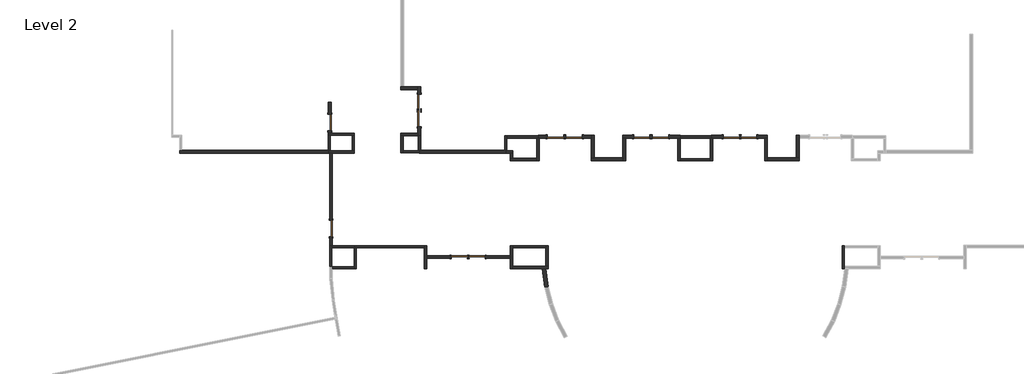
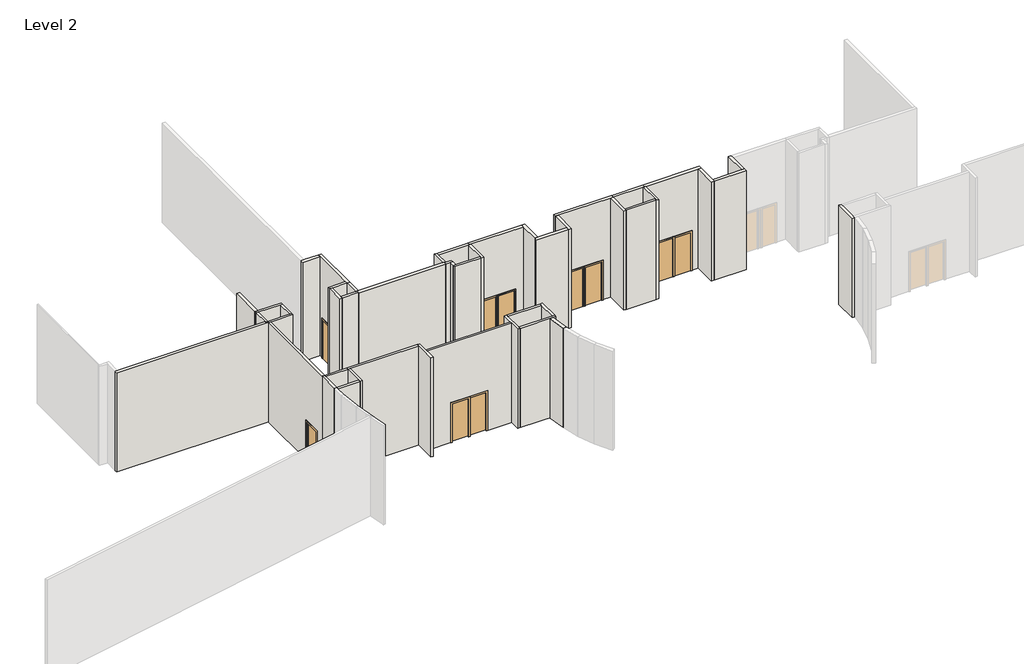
# One storey, part 4 of 9: 46 walls, 12 doors.
"""IFC4 building model written with IfcOpenShell, lengths in millimetres."""

from ifc_helpers import new_model, si_unit, frame, origin, place, context, project, spatial, polyline, outline, extrude, faceted_brep, transform, mapped, element, save
from components import door_7c9e1b45, door_8244bb97, door_3b0d1d25, door_1264ff72

model = new_model("IFC4")

# Units and contexts
model_context = context("Model", 3, world=origin())
ifc_project = project(units=[si_unit("LENGTHUNIT", "METRE", prefix="MILLI")], contexts=[model_context])

# Site, building, storey
site = spatial("IfcSite", under=ifc_project)
building = spatial("IfcBuilding", under=site)
storey = spatial("IfcBuildingStorey", under=building, Name="Level 2", Elevation=5486.4)

# Doors
placement = place(None, origin())
door_shape = door_7c9e1b45(model_context)
element("IfcDoor", 1, ObjectType="Single-Flush : 34\" x 84\"", at=placement, inside=storey, context=model_context, shape_type="MappedRepresentation", body=[
    mapped(door_shape, transform((12627.3004373, 1095.1832334, 5486.4), x_axis=(1.0, 0.0, 0.0), y_axis=(0.0, 1.0, 0.0), z_axis=(0.0, 0.0, 1.0))),
])
element("IfcDoor", 2, ObjectType="Single-Flush : 34\" x 84\"", at=placement, inside=storey, context=model_context, shape_type="MappedRepresentation", body=[
    mapped(door_shape, transform((4928.1349579, 2611.2457269, 5486.4), x_axis=(0.0, -1.0, 0.0), y_axis=(1.0, 0.0, 0.0), z_axis=(0.0, 0.0, 1.0))),
])
door_2_shape = door_8244bb97(model_context)
element("IfcDoor", 3, ObjectType="Single-Flush : 34\" x 84\"", at=placement, inside=storey, context=model_context, shape_type="MappedRepresentation", body=[
    mapped(door_2_shape, transform((16769.0879373, 7440.4206109, 5486.4), x_axis=(-1.0, 0.0, 0.0), y_axis=(0.0, -1.0, 0.0), z_axis=(0.0, 0.0, 1.0))),
])
element("IfcDoor", 4, ObjectType="Single-Flush : 34\" x 84\"", at=placement, inside=storey, context=model_context, shape_type="MappedRepresentation", body=[
    mapped(door_2_shape, transform((21325.2129373, 7440.4206109, 5486.4), x_axis=(-1.0, 0.0, 0.0), y_axis=(0.0, -1.0, 0.0), z_axis=(0.0, 0.0, 1.0))),
])
element("IfcDoor", 5, ObjectType="Single-Flush : 34\" x 84\"", at=placement, inside=storey, context=model_context, shape_type="MappedRepresentation", body=[
    mapped(door_2_shape, transform((26065.4879373, 7440.4206109, 5486.4), x_axis=(-1.0, 0.0, 0.0), y_axis=(0.0, -1.0, 0.0), z_axis=(0.0, 0.0, 1.0))),
])
element("IfcDoor", 6, ObjectType="Single-Flush : 34\" x 84\"", at=placement, inside=storey, context=model_context, shape_type="MappedRepresentation", body=[
    mapped(door_2_shape, transform((4859.6629372, 8197.6581105, 5486.4), x_axis=(0.0, -1.0, 0.0), y_axis=(1.0, 0.0, 0.0), z_axis=(0.0, 0.0, 1.0))),
])
element("IfcDoor", 7, ObjectType="Single-Flush : 34\" x 84\"", at=placement, inside=storey, context=model_context, shape_type="MappedRepresentation", body=[
    mapped(door_2_shape, transform((9593.5879373, 9250.1706107, 5486.4), x_axis=(0.0, 1.0, 0.0), y_axis=(-1.0, 0.0, 0.0), z_axis=(0.0, 0.0, 1.0))),
])
door_3_shape = door_3b0d1d25(model_context)
element("IfcDoor", 8, ObjectType="Single-Flush : 34\" x 84\"", at=placement, inside=storey, context=model_context, shape_type="MappedRepresentation", body=[
    mapped(door_3_shape, transform((11712.9004373, 1095.1832334, 5486.4), x_axis=(-1.0, 0.0, 0.0), y_axis=(0.0, -1.0, 0.0), z_axis=(0.0, 0.0, 1.0))),
])
door_4_shape = door_1264ff72(model_context)
element("IfcDoor", 9, ObjectType="Single-Flush : 34\" x 84\"", at=placement, inside=storey, context=model_context, shape_type="MappedRepresentation", body=[
    mapped(door_4_shape, transform((17753.3379373, 7440.4206109, 5486.4), x_axis=(1.0, 0.0, 0.0), y_axis=(0.0, 1.0, 0.0), z_axis=(0.0, 0.0, 1.0))),
])
element("IfcDoor", 10, ObjectType="Single-Flush : 34\" x 84\"", at=placement, inside=storey, context=model_context, shape_type="MappedRepresentation", body=[
    mapped(door_4_shape, transform((22309.4629373, 7440.4206109, 5486.4), x_axis=(1.0, 0.0, 0.0), y_axis=(0.0, 1.0, 0.0), z_axis=(0.0, 0.0, 1.0))),
])
element("IfcDoor", 11, ObjectType="Single-Flush : 34\" x 84\"", at=placement, inside=storey, context=model_context, shape_type="MappedRepresentation", body=[
    mapped(door_4_shape, transform((26973.5379373, 7440.4206109, 5486.4), x_axis=(1.0, 0.0, 0.0), y_axis=(0.0, 1.0, 0.0), z_axis=(0.0, 0.0, 1.0))),
])
element("IfcDoor", 12, ObjectType="Single-Flush : 34\" x 84\"", at=placement, inside=storey, context=model_context, shape_type="MappedRepresentation", body=[
    mapped(door_4_shape, transform((9593.5879373, 8412.7643606, 5486.4), x_axis=(0.0, -1.0, 0.0), y_axis=(1.0, 0.0, 0.0), z_axis=(0.0, 0.0, 1.0))),
])

# Walls
element("IfcWall", 13, ObjectType="N3A/B", at=placement, inside=storey, context=model_context, shape_type="Brep", body=[
    faceted_brep([(9671.3754373, 10089.9581107, 5486.4), (9671.3754373, 10089.9581107, 10972.8), (9671.3754373, 7513.4456105, 10972.8), (9671.3754373, 7513.4456105, 5486.4), (9671.3754373, 7980.9643606, 5486.4), (9671.3754373, 7980.9643606, 7620.0), (9671.3754373, 9681.9706107, 7620.0), (9671.3754373, 9681.9706107, 5486.4), (9515.8004373, 7513.4456105, 5486.4), (9515.8004373, 7513.4456105, 10972.8), (9515.8004373, 7637.2706105, 10972.8), (9515.8004373, 9934.3831107, 10972.8), (9515.8004373, 10089.9581107, 10972.8), (9515.8004373, 10089.9581107, 5486.4), (9515.8004373, 9934.3831107, 5486.4), (9515.8004373, 9681.9706107, 5486.4), (9515.8004373, 9681.9706107, 7620.0), (9515.8004373, 7980.9643606, 7620.0), (9515.8004373, 7980.9643606, 5486.4), (9515.8004373, 7637.2706105, 5486.4), (9655.5004373, 7513.4456105, 5486.4), (9531.6754373, 7513.4456105, 5486.4), (9531.6754373, 7513.4456105, 10972.8), (9655.5004373, 7513.4456105, 10972.8)], [[[0, 1, 2, 3, 4, 5, 6, 7]], [[8, 9, 10, 11, 12, 13, 14, 15, 16, 17, 18, 19]], [[3, 20, 21, 8, 19, 18, 4]], [[13, 0, 7, 15, 14]], [[2, 1, 12, 11, 10, 9, 22, 23]], [[1, 0, 13, 12]], [[3, 2, 23, 22, 9, 8, 21, 20]], [[16, 15, 7, 6]], [[16, 6, 5, 17]], [[17, 5, 4, 18]]]),
])
element("IfcWall", 14, ObjectType="N3A/B", at=placement, inside=storey, context=model_context, shape_type="Brep", body=[
    faceted_brep([(9515.8004373, 10089.9581107, 5486.4), (8756.9754373, 10089.9581107, 5486.4), (8601.4004373, 10089.9581107, 5486.4), (8601.4004373, 10089.9581107, 10972.8), (8756.9754373, 10089.9581107, 10972.8), (9515.8004373, 10089.9581107, 10972.8), (9515.8004373, 9934.3831107, 5486.4), (9515.8004373, 9934.3831107, 10972.8), (8601.4004373, 9934.3831107, 10972.8), (8601.4004373, 9934.3831107, 5486.4)], [[[0, 1, 2, 3, 4, 5]], [[6, 7, 8, 9]], [[2, 1, 0, 6, 9]], [[5, 4, 3, 8, 7]], [[3, 2, 9, 8]], [[0, 5, 7, 6]]]),
])
element("IfcWall", 15, ObjectType="N3A/B", at=placement, inside=storey, context=model_context, shape_type="Brep", body=[
    faceted_brep([(-3060.3745627, 6581.5831105, 5486.4), (4866.2224579, 6581.5831105, 5486.4), (4866.2224579, 6581.5831105, 10972.8), (-3060.3745627, 6581.5831105, 10972.8), (-3060.3745627, 6737.1581105, 5486.4), (-3060.3745627, 6737.1581105, 10972.8), (-2936.5495627, 6737.1581105, 10972.8), (4788.2254373, 6737.1581105, 10972.8), (4788.2254373, 6737.1581105, 5486.4), (-2936.5495627, 6737.1581105, 5486.4), (4788.2254373, 6695.8831105, 5486.4), (4788.2254373, 6587.9331105, 5486.4), (4866.2224579, 6587.9331105, 5486.4), (4866.2224579, 6587.9331105, 10972.8), (4788.2254373, 6587.9331105, 10972.8), (4788.2254373, 6695.8831105, 10972.8)], [[[0, 1, 2, 3]], [[4, 5, 6, 7, 8, 9]], [[1, 0, 4, 9, 8, 10, 11, 12]], [[3, 2, 13, 14, 15, 7, 6, 5]], [[0, 3, 5, 4]], [[2, 1, 12, 13]], [[12, 11, 14, 13]], [[11, 10, 8, 7, 15, 14]]]),
])
element("IfcWall", 16, ObjectType="N3A/B", at=placement, inside=storey, context=model_context, shape_type="Brep", body=[
    faceted_brep([(4781.8754372, 7765.8581105, 7620.0), (4781.8754372, 7765.8581105, 5486.4), (4781.8754372, 7642.0331105, 5486.4), (4781.8754372, 7642.0331105, 10972.8), (4781.8754372, 9277.1581105, 10972.8), (4781.8754372, 9277.1581105, 5486.4), (4781.8754372, 8629.4581105, 5486.4), (4781.8754372, 8629.4581105, 7620.0), (4937.4504372, 7642.0331105, 5486.4), (4937.4504372, 7765.8581105, 5486.4), (4937.4504372, 7765.8581105, 7620.0), (4937.4504372, 8629.4581105, 7620.0), (4937.4504372, 8629.4581105, 5486.4), (4937.4504372, 9277.1581105, 5486.4), (4937.4504372, 9277.1581105, 10972.8), (4937.4504372, 7642.0331105, 10972.8), (4788.2254373, 7642.0331105, 5486.4), (4788.2254373, 7642.0331105, 10972.8)], [[[0, 1, 2, 3, 4, 5, 6, 7]], [[8, 9, 10, 11, 12, 13, 14, 15]], [[2, 1, 9, 8, 16]], [[6, 5, 13, 12]], [[4, 3, 17, 15, 14]], [[5, 4, 14, 13]], [[3, 2, 16, 8, 15, 17]], [[10, 9, 1, 0]], [[11, 10, 0, 7]], [[12, 11, 7, 6]]]),
])
element("IfcWall", 17, ObjectType="N3A/B", at=placement, inside=storey, context=model_context, shape_type="Brep", body=[
    faceted_brep([(27405.3379373, 7362.6331109, 7620.0), (27405.3379373, 7362.6331109, 5486.4), (27803.8004373, 7362.6331109, 5486.4), (27959.3754373, 7362.6331109, 5486.4), (27959.3754373, 7362.6331109, 10972.8), (27803.8004373, 7362.6331109, 10972.8), (25060.6004373, 7362.6331109, 10972.8), (24998.6879373, 7362.6331109, 10972.8), (24998.6879373, 7362.6331109, 5486.4), (25060.6004373, 7362.6331109, 5486.4), (25633.6879373, 7362.6331109, 5486.4), (25633.6879373, 7362.6331109, 7620.0), (26497.2879373, 7362.6331109, 7620.0), (26497.2879373, 7362.6331109, 5486.4), (26541.7379373, 7362.6331109, 5486.4), (26541.7379373, 7362.6331109, 7620.0), (27959.3754373, 7518.2081109, 5486.4), (27405.3379373, 7518.2081109, 5486.4), (27405.3379373, 7518.2081109, 7620.0), (26541.7379373, 7518.2081109, 7620.0), (26541.7379373, 7518.2081109, 5486.4), (26497.2879373, 7518.2081109, 5486.4), (26497.2879373, 7518.2081109, 7620.0), (25633.6879373, 7518.2081109, 7620.0), (25633.6879373, 7518.2081109, 5486.4), (24998.6879373, 7518.2081109, 5486.4), (24998.6879373, 7518.2081109, 10972.8), (27959.3754373, 7518.2081109, 10972.8), (24998.6879373, 7378.5081109, 5486.4), (24998.6879373, 7502.3331109, 5486.4), (24998.6879373, 7502.3331109, 10972.8), (24998.6879373, 7378.5081109, 10972.8)], [[[0, 1, 2, 3, 4, 5, 6, 7, 8, 9, 10, 11, 12, 13, 14, 15]], [[16, 17, 18, 19, 20, 21, 22, 23, 24, 25, 26, 27]], [[25, 24, 10, 9, 8, 28, 29]], [[3, 2, 1, 17, 16]], [[14, 13, 21, 20]], [[7, 6, 5, 4, 27, 26, 30, 31]], [[8, 7, 31, 30, 26, 25, 29, 28]], [[4, 3, 16, 27]], [[11, 10, 24, 23]], [[12, 11, 23, 22]], [[13, 12, 22, 21]], [[18, 17, 1, 0]], [[19, 18, 0, 15]], [[20, 19, 15, 14]]]),
])
element("IfcWall", 18, ObjectType="N3A/B", at=placement, inside=storey, context=model_context, shape_type="Brep", body=[
    faceted_brep([(27803.8004373, 7362.6331109, 5486.4), (27803.8004373, 6175.1831102, 5486.4), (27803.8004373, 6175.1831102, 10972.8), (27803.8004373, 7362.6331109, 10972.8), (27959.3754373, 7362.6331109, 5486.4), (27959.3754373, 7362.6331109, 10972.8), (27959.3754373, 6330.7581102, 10972.8), (27959.3754373, 6175.1831102, 10972.8), (27959.3754373, 6175.1831102, 5486.4), (27959.3754373, 6330.7581102, 5486.4)], [[[0, 1, 2, 3]], [[4, 5, 6, 7, 8, 9]], [[1, 0, 4, 9, 8]], [[3, 2, 7, 6, 5]], [[2, 1, 8, 7]], [[0, 3, 5, 4]]]),
])
element("IfcWall", 19, ObjectType="N3A/B", at=placement, inside=storey, context=model_context, shape_type="Brep", body=[
    faceted_brep([(27959.3754373, 6175.1831102, 5486.4), (29632.6004373, 6175.1831102, 5486.4), (29632.6004373, 6175.1831102, 10972.8), (27959.3754373, 6175.1831102, 10972.8), (27959.3754373, 6330.7581102, 5486.4), (27959.3754373, 6330.7581102, 10972.8), (29477.0254373, 6330.7581102, 10972.8), (29632.6004373, 6330.7581102, 10972.8), (29632.6004373, 6330.7581102, 5486.4), (29477.0254373, 6330.7581102, 5486.4)], [[[0, 1, 2, 3]], [[4, 5, 6, 7, 8, 9]], [[1, 0, 4, 9, 8]], [[3, 2, 7, 6, 5]], [[2, 1, 8, 7]], [[0, 3, 5, 4]]]),
])
element("IfcWall", 20, ObjectType="N3A/B", at=placement, inside=storey, context=model_context, shape_type="Brep", body=[
    faceted_brep([(29632.6004373, 6330.7581102, 5486.4), (29632.6004373, 7362.6331109, 5486.4), (29632.6004373, 7518.2081109, 5486.4), (29632.6004373, 7518.2081109, 10972.8), (29632.6004373, 7362.6331109, 10972.8), (29632.6004373, 6330.7581102, 10972.8), (29477.0254373, 6330.7581102, 5486.4), (29477.0254373, 6330.7581102, 10972.8), (29477.0254373, 7518.2081109, 10972.8), (29477.0254373, 7518.2081109, 5486.4)], [[[0, 1, 2, 3, 4, 5]], [[6, 7, 8, 9]], [[2, 1, 0, 6, 9]], [[5, 4, 3, 8, 7]], [[3, 2, 9, 8]], [[0, 5, 7, 6]]]),
])
element("IfcWall", 21, ObjectType="N3A/B", at=placement, inside=storey, context=model_context, shape_type="Brep", body=[
    faceted_brep([(23355.6254373, 7518.2081109, 5486.4), (22741.2629373, 7518.2081109, 5486.4), (22741.2629373, 7518.2081109, 7620.0), (21877.6629373, 7518.2081109, 7620.0), (21877.6629373, 7518.2081109, 5486.4), (21757.0129373, 7518.2081109, 5486.4), (21757.0129373, 7518.2081109, 7620.0), (20893.4129373, 7518.2081109, 7620.0), (20893.4129373, 7518.2081109, 5486.4), (20333.0254373, 7518.2081109, 5486.4), (20333.0254373, 7518.2081109, 10972.8), (23355.6254373, 7518.2081109, 10972.8), (22741.2629373, 7362.6331109, 7620.0), (22741.2629373, 7362.6331109, 5486.4), (23231.8004373, 7362.6331109, 5486.4), (23355.6254373, 7362.6331109, 5486.4), (23355.6254373, 7362.6331109, 10972.8), (23231.8004373, 7362.6331109, 10972.8), (20488.6004373, 7362.6331109, 10972.8), (20333.0254373, 7362.6331109, 10972.8), (20333.0254373, 7362.6331109, 5486.4), (20488.6004373, 7362.6331109, 5486.4), (20893.4129373, 7362.6331109, 5486.4), (20893.4129373, 7362.6331109, 7620.0), (21757.0129373, 7362.6331109, 7620.0), (21757.0129373, 7362.6331109, 5486.4), (21877.6629373, 7362.6331109, 5486.4), (21877.6629373, 7362.6331109, 7620.0), (23355.6254373, 7502.3331109, 5486.4), (23355.6254373, 7378.5081109, 5486.4), (23355.6254373, 7378.5081109, 10972.8), (23355.6254373, 7502.3331109, 10972.8)], [[[0, 1, 2, 3, 4, 5, 6, 7, 8, 9, 10, 11]], [[12, 13, 14, 15, 16, 17, 18, 19, 20, 21, 22, 23, 24, 25, 26, 27]], [[9, 8, 22, 21, 20]], [[15, 14, 13, 1, 0, 28, 29]], [[26, 25, 5, 4]], [[11, 10, 19, 18, 17, 16, 30, 31]], [[10, 9, 20, 19]], [[0, 11, 31, 30, 16, 15, 29, 28]], [[23, 22, 8, 7]], [[24, 23, 7, 6]], [[25, 24, 6, 5]], [[2, 1, 13, 12]], [[3, 2, 12, 27]], [[4, 3, 27, 26]]]),
])
element("IfcWall", 22, ObjectType="N3A/B", at=placement, inside=storey, context=model_context, shape_type="Brep", body=[
    faceted_brep([(20333.0254373, 7362.6331109, 5486.4), (20333.0254373, 6330.7581102, 5486.4), (20333.0254373, 6175.1831102, 5486.4), (20333.0254373, 6175.1831102, 10972.8), (20333.0254373, 6330.7581102, 10972.8), (20333.0254373, 7362.6331109, 10972.8), (20488.6004373, 7362.6331109, 5486.4), (20488.6004373, 7362.6331109, 10972.8), (20488.6004373, 6175.1831102, 10972.8), (20488.6004373, 6175.1831102, 5486.4)], [[[0, 1, 2, 3, 4, 5]], [[6, 7, 8, 9]], [[2, 1, 0, 6, 9]], [[5, 4, 3, 8, 7]], [[3, 2, 9, 8]], [[0, 5, 7, 6]]]),
])
element("IfcWall", 23, ObjectType="N3A/B", at=placement, inside=storey, context=model_context, shape_type="Brep", body=[
    faceted_brep([(20333.0254373, 6330.7581102, 5486.4), (18815.3754373, 6330.7581102, 5486.4), (18659.8004373, 6330.7581102, 5486.4), (18659.8004373, 6330.7581102, 10972.8), (18815.3754373, 6330.7581102, 10972.8), (20333.0254373, 6330.7581102, 10972.8), (20333.0254373, 6175.1831102, 5486.4), (20333.0254373, 6175.1831102, 10972.8), (18659.8004373, 6175.1831102, 10972.8), (18659.8004373, 6175.1831102, 5486.4)], [[[0, 1, 2, 3, 4, 5]], [[6, 7, 8, 9]], [[2, 1, 0, 6, 9]], [[5, 4, 3, 8, 7]], [[3, 2, 9, 8]], [[0, 5, 7, 6]]]),
])
element("IfcWall", 24, ObjectType="N3A/B", at=placement, inside=storey, context=model_context, shape_type="Brep", body=[
    faceted_brep([(18815.3754373, 6330.7581102, 5486.4), (18815.3754373, 7518.2081109, 5486.4), (18815.3754373, 7518.2081109, 10972.8), (18815.3754373, 6330.7581102, 10972.8), (18659.8004373, 6330.7581102, 5486.4), (18659.8004373, 6330.7581102, 10972.8), (18659.8004373, 7362.6331109, 10972.8), (18659.8004373, 7518.2081109, 10972.8), (18659.8004373, 7518.2081109, 5486.4), (18659.8004373, 7362.6331109, 5486.4)], [[[0, 1, 2, 3]], [[4, 5, 6, 7, 8, 9]], [[1, 0, 4, 9, 8]], [[3, 2, 7, 6, 5]], [[2, 1, 8, 7]], [[0, 3, 5, 4]]]),
])
element("IfcWall", 25, ObjectType="N3A/B", at=placement, inside=storey, context=model_context, shape_type="Brep", body=[
    faceted_brep([(18659.8004373, 7518.2081109, 5486.4), (18185.1379373, 7518.2081109, 5486.4), (18185.1379373, 7518.2081109, 7620.0), (17321.5379373, 7518.2081109, 7620.0), (17321.5379373, 7518.2081109, 5486.4), (17200.8879373, 7518.2081109, 5486.4), (17200.8879373, 7518.2081109, 7620.0), (16337.2879373, 7518.2081109, 7620.0), (16337.2879373, 7518.2081109, 5486.4), (15854.6879373, 7518.2081109, 5486.4), (15854.6879373, 7518.2081109, 10972.8), (18659.8004373, 7518.2081109, 10972.8), (18185.1379373, 7362.6331109, 7620.0), (18185.1379373, 7362.6331109, 5486.4), (18659.8004373, 7362.6331109, 5486.4), (18659.8004373, 7362.6331109, 10972.8), (15916.6004373, 7362.6331109, 10972.8), (15854.6879373, 7362.6331109, 10972.8), (15854.6879373, 7362.6331109, 5486.4), (15916.6004373, 7362.6331109, 5486.4), (16337.2879373, 7362.6331109, 5486.4), (16337.2879373, 7362.6331109, 7620.0), (17200.8879373, 7362.6331109, 7620.0), (17200.8879373, 7362.6331109, 5486.4), (17321.5379373, 7362.6331109, 5486.4), (17321.5379373, 7362.6331109, 7620.0), (15854.6879373, 7378.5081109, 5486.4), (15854.6879373, 7502.3331109, 5486.4), (15854.6879373, 7378.5081109, 10972.8), (15854.6879373, 7502.3331109, 10972.8)], [[[0, 1, 2, 3, 4, 5, 6, 7, 8, 9, 10, 11]], [[12, 13, 14, 15, 16, 17, 18, 19, 20, 21, 22, 23, 24, 25]], [[9, 8, 20, 19, 18, 26, 27]], [[14, 13, 1, 0]], [[24, 23, 5, 4]], [[10, 9, 27, 26, 18, 17, 28, 29]], [[11, 10, 29, 28, 17, 16, 15]], [[0, 11, 15, 14]], [[21, 20, 8, 7]], [[22, 21, 7, 6]], [[23, 22, 6, 5]], [[2, 1, 13, 12]], [[3, 2, 12, 25]], [[4, 3, 25, 24]]]),
])
element("IfcWall", 26, ObjectType="N3A/B", at=placement, inside=storey, context=model_context, shape_type="Brep", body=[
    faceted_brep([(14149.7129373, 6737.1581102, 5486.4), (14087.8004373, 6737.1581102, 5486.4), (9655.5004373, 6737.1581102, 5486.4), (9593.5879373, 6737.1581102, 5486.4), (9593.5879373, 6737.1581102, 10972.8), (9655.5004373, 6737.1581102, 10972.8), (14087.8004373, 6737.1581102, 10972.8), (14149.7129373, 6737.1581102, 10972.8), (14149.7129373, 6581.5831102, 5486.4), (14149.7129373, 6581.5831102, 10972.8), (9593.5879373, 6581.5831102, 10972.8), (9593.5879373, 6581.5831102, 5486.4), (14149.7129373, 6705.4081102, 5486.4), (9593.5879373, 6597.4581102, 5486.4), (9593.5879373, 6721.2831102, 5486.4), (9593.5879373, 6597.4581102, 10972.8), (9593.5879373, 6721.2831102, 10972.8), (14149.7129373, 6705.4081102, 10972.8)], [[[0, 1, 2, 3, 4, 5, 6, 7]], [[8, 9, 10, 11]], [[3, 2, 1, 0, 12, 8, 11, 13, 14]], [[4, 3, 14, 13, 11, 10, 15, 16]], [[7, 6, 5, 4, 16, 15, 10, 9, 17]], [[0, 7, 17, 9, 8, 12]]]),
])
element("IfcWall", 27, ObjectType="N2A/B", at=placement, inside=storey, context=model_context, shape_type="Brep", body=[
    faceted_brep([(31898.8894101, 1703.1957269, 5486.4), (31898.8894101, 489.4429992, 5486.4), (31898.8894101, 489.4429992, 10972.8), (31898.8894101, 1703.1957269, 10972.8), (32022.7144101, 1703.1957269, 5486.4), (32022.7144101, 1703.1957269, 10972.8), (32022.7144101, 1579.3707269, 10972.8), (32022.7144101, 613.2679992, 10972.8), (32022.7144101, 489.4429992, 10972.8), (32022.7144101, 489.4429992, 5486.4), (32022.7144101, 613.2679992, 5486.4), (32022.7144101, 1579.3707269, 5486.4)], [[[0, 1, 2, 3]], [[4, 5, 6, 7, 8, 9, 10, 11]], [[1, 0, 4, 11, 10, 9]], [[3, 2, 8, 7, 6, 5]], [[2, 1, 9, 8]], [[0, 3, 5, 4]]]),
])
element("IfcWall", 28, ObjectType="N2A/B", at=placement, inside=storey, context=model_context, shape_type="Brep", body=[
    faceted_brep([(14394.1879373, 1703.1957269, 5486.4), (14394.1879373, 1157.0957334, 5486.4), (14394.1879373, 1033.2707334, 5486.4), (14394.1879373, 487.1707269, 5486.4), (14394.1879373, 487.1707269, 10972.8), (14394.1879373, 1033.2707334, 10972.8), (14394.1879373, 1157.0957334, 10972.8), (14394.1879373, 1703.1957269, 10972.8), (14518.0129373, 1703.1957269, 5486.4), (14518.0129373, 1703.1957269, 10972.8), (14518.0129373, 1579.3707269, 10972.8), (14518.0129373, 610.9957269, 10972.8), (14518.0129373, 487.1707269, 10972.8), (14518.0129373, 487.1707269, 5486.4), (14518.0129373, 610.9957269, 5486.4), (14518.0129373, 1579.3707269, 5486.4)], [[[0, 1, 2, 3, 4, 5, 6, 7]], [[8, 9, 10, 11, 12, 13, 14, 15]], [[3, 2, 1, 0, 8, 15, 14, 13]], [[7, 6, 5, 4, 12, 11, 10, 9]], [[4, 3, 13, 12]], [[0, 7, 9, 8]]]),
])
element("IfcWall", 29, ObjectType="N2A/B", at=placement, inside=storey, context=model_context, shape_type="Brep", body=[
    faceted_brep([(14518.0129373, 487.1707269, 5486.4), (16393.0806998, 487.1707269, 5486.4), (16393.0806998, 487.1707269, 10972.8), (14518.0129373, 487.1707269, 10972.8), (14518.0129373, 610.9957269, 5486.4), (14518.0129373, 610.9957269, 10972.8), (16269.2556998, 610.9957269, 10972.8), (16393.0806998, 610.9957269, 10972.8), (16393.0806998, 610.9957269, 5486.4), (16269.2556998, 610.9957269, 5486.4)], [[[0, 1, 2, 3]], [[4, 5, 6, 7, 8, 9]], [[1, 0, 4, 9, 8]], [[3, 2, 7, 6, 5]], [[2, 1, 8, 7]], [[0, 3, 5, 4]]]),
])
element("IfcWall", 30, ObjectType="N2A/B", at=placement, inside=storey, context=model_context, shape_type="Brep", body=[
    faceted_brep([(16393.0806998, 610.9957269, 5486.4), (16393.0806998, 1703.1957269, 5486.4), (16393.0806998, 1703.1957269, 10972.8), (16393.0806998, 610.9957269, 10972.8), (16269.2556998, 610.9957269, 5486.4), (16269.2556998, 610.9957269, 10972.8), (16269.2556998, 1579.3707269, 10972.8), (16269.2556998, 1703.1957269, 10972.8), (16269.2556998, 1703.1957269, 5486.4), (16269.2556998, 1579.3707269, 5486.4)], [[[0, 1, 2, 3]], [[4, 5, 6, 7, 8, 9]], [[1, 0, 4, 9, 8]], [[3, 2, 7, 6, 5]], [[2, 1, 8, 7]], [[0, 3, 5, 4]]]),
])
element("IfcWall", 31, ObjectType="N2A/B", at=placement, inside=storey, context=model_context, shape_type="SweptSolid", body=[
    extrude(outline(polyline([(14518.0129373, 1703.1957269), (16269.2556998, 1703.1957269), (16269.2556998, 1579.3707269), (14518.0129373, 1579.3707269), (14518.0129373, 1703.1957269)])), frame((0.0, 0.0, 5486.4), z_axis=(0.0, 0.0, 1.0), x_axis=(1.0, 0.0, 0.0)), (0.0, 0.0, 1.0), 5486.4),
])
element("IfcWall", 32, ObjectType="F1C", at=placement, inside=storey, context=model_context, shape_type="Brep", body=[
    faceted_brep([(6151.0841004, 1580.9582269, 5486.4), (6151.0841004, 593.5332269, 5486.4), (6151.0841004, 485.5832269, 5486.4), (6151.0841004, 485.5832269, 10972.8), (6151.0841004, 593.5332269, 10972.8), (6151.0841004, 1580.9582269, 10972.8), (6259.0341004, 1580.9582269, 5486.4), (6259.0341004, 1580.9582269, 10972.8), (6259.0341004, 485.5832269, 10972.8), (6259.0341004, 485.5832269, 5486.4)], [[[0, 1, 2, 3, 4, 5]], [[6, 7, 8, 9]], [[2, 1, 0, 6, 9]], [[5, 4, 3, 8, 7]], [[3, 2, 9, 8]], [[0, 5, 7, 6]]]),
])
element("IfcWall", 33, ObjectType="F1C", at=placement, inside=storey, context=model_context, shape_type="SweptSolid", body=[
    extrude(outline(polyline([(4990.0474579, 593.5332269), (6151.0841004, 593.5332269), (6151.0841004, 485.5832269), (4990.0474579, 485.5832269), (4990.0474579, 593.5332269)])), frame((0.0, 0.0, 5486.4), z_axis=(0.0, 0.0, 1.0), x_axis=(1.0, 0.0, 0.0)), (0.0, 0.0, 1.0), 5486.4),
])
element("IfcWall", 34, ObjectType="F1C", at=placement, inside=storey, context=model_context, shape_type="Brep", body=[
    faceted_brep([(4874.1599579, 1696.8457269, 5486.4), (4874.1599579, 593.5332269, 5486.4), (4874.1599579, 593.5332269, 10972.8), (4874.1599579, 1696.8457269, 10972.8), (4982.1099579, 1696.8457269, 5486.4), (4982.1099579, 1696.8457269, 10972.8), (4982.1099579, 1588.8957269, 10972.8), (4982.1099579, 593.5332269, 10972.8), (4982.1099579, 593.5332269, 5486.4), (4982.1099579, 1588.8957269, 5486.4)], [[[0, 1, 2, 3]], [[4, 5, 6, 7, 8, 9]], [[1, 0, 4, 9, 8]], [[3, 2, 7, 6, 5]], [[0, 3, 5, 4]], [[2, 1, 8, 7]]]),
])
element("IfcWall", 35, ObjectType="F1C", at=placement, inside=storey, context=model_context, shape_type="Brep", body=[
    faceted_brep([(4982.1099579, 1588.8957269, 5486.4), (6151.0841004, 1588.8957269, 5486.4), (6151.0841004, 1588.8957269, 10972.8), (4982.1099579, 1588.8957269, 10972.8), (4982.1099579, 1696.8457269, 5486.4), (4982.1099579, 1696.8457269, 10972.8), (4990.0474579, 1696.8457269, 10972.8), (6151.0841004, 1696.8457269, 10972.8), (6151.0841004, 1696.8457269, 5486.4), (4990.0474579, 1696.8457269, 5486.4)], [[[0, 1, 2, 3]], [[4, 5, 6, 7, 8, 9]], [[1, 0, 4, 9, 8]], [[3, 2, 7, 6, 5]], [[0, 3, 5, 4]], [[2, 1, 8, 7]]]),
])
element("IfcWall", 36, ObjectType="F2A", at=placement, inside=storey, context=model_context, shape_type="Brep", body=[
    faceted_brep([(6156.6504373, 6695.8831105, 5486.4), (6048.7004373, 6695.8831105, 5486.4), (4896.1754373, 6695.8831105, 5486.4), (4788.2254373, 6695.8831105, 5486.4), (4788.2254373, 6695.8831105, 10972.8), (4896.1754373, 6695.8831105, 10972.8), (6048.7004373, 6695.8831105, 10972.8), (6156.6504373, 6695.8831105, 10972.8), (6156.6504373, 6587.9331105, 5486.4), (6156.6504373, 6587.9331105, 10972.8), (4990.0474579, 6587.9331105, 10972.8), (4866.2224579, 6587.9331105, 10972.8), (4788.2254373, 6587.9331105, 10972.8), (4788.2254373, 6587.9331105, 5486.4), (4866.2224579, 6587.9331105, 5486.4), (4990.0474579, 6587.9331105, 5486.4)], [[[0, 1, 2, 3, 4, 5, 6, 7]], [[8, 9, 10, 11, 12, 13, 14, 15]], [[3, 2, 1, 0, 8, 15, 14, 13]], [[7, 6, 5, 4, 12, 11, 10, 9]], [[4, 3, 13, 12]], [[0, 7, 9, 8]]]),
])
element("IfcWall", 37, ObjectType="F2A", at=placement, inside=storey, context=model_context, shape_type="Brep", body=[
    faceted_brep([(6156.6504373, 7642.0331105, 5486.4), (4937.4504372, 7642.0331105, 5486.4), (4788.2254373, 7642.0331105, 5486.4), (4788.2254373, 7642.0331105, 10972.8), (4937.4504372, 7642.0331105, 10972.8), (6156.6504373, 7642.0331105, 10972.8), (6156.6504373, 7534.0831105, 5486.4), (6156.6504373, 7534.0831105, 10972.8), (6048.7004373, 7534.0831105, 10972.8), (4896.1754373, 7534.0831105, 10972.8), (4788.2254373, 7534.0831105, 10972.8), (4788.2254373, 7534.0831105, 5486.4), (4896.1754373, 7534.0831105, 5486.4), (6048.7004373, 7534.0831105, 5486.4)], [[[0, 1, 2, 3, 4, 5]], [[6, 7, 8, 9, 10, 11, 12, 13]], [[2, 1, 0, 6, 13, 12, 11]], [[5, 4, 3, 10, 9, 8, 7]], [[3, 2, 11, 10]], [[0, 5, 7, 6]]]),
])
element("IfcWall", 38, ObjectType="F2A", at=placement, inside=storey, context=model_context, shape_type="Brep", body=[
    faceted_brep([(4788.2254373, 7534.0831105, 5486.4), (4788.2254373, 6737.1581105, 5486.4), (4788.2254373, 6695.8831105, 5486.4), (4788.2254373, 6695.8831105, 10972.8), (4788.2254373, 6737.1581105, 10972.8), (4788.2254373, 7534.0831105, 10972.8), (4896.1754373, 7534.0831105, 5486.4), (4896.1754373, 7534.0831105, 10972.8), (4896.1754373, 6695.8831105, 10972.8), (4896.1754373, 6695.8831105, 5486.4)], [[[0, 1, 2, 3, 4, 5]], [[6, 7, 8, 9]], [[2, 1, 0, 6, 9]], [[5, 4, 3, 8, 7]], [[3, 2, 9, 8]], [[0, 5, 7, 6]]]),
])
element("IfcWall", 39, ObjectType="F2A", at=placement, inside=storey, context=model_context, shape_type="SweptSolid", body=[
    extrude(outline(polyline([(6048.7004373, 6695.8831105), (6048.7004373, 7534.0831105), (6156.6504373, 7534.0831105), (6156.6504373, 6695.8831105), (6048.7004373, 6695.8831105)])), frame((0.0, 0.0, 5486.4), z_axis=(0.0, 0.0, 1.0), x_axis=(1.0, 0.0, 0.0)), (0.0, 0.0, 1.0), 5486.4),
])
element("IfcWall", 40, ObjectType="F4A", at=placement, inside=storey, context=model_context, shape_type="Brep", body=[
    faceted_brep([(9515.8004373, 7637.2706105, 5486.4), (8617.2754373, 7637.2706105, 5486.4), (8617.2754373, 7637.2706105, 10972.8), (9515.8004373, 7637.2706105, 10972.8), (9515.8004373, 7513.4456105, 5486.4), (9515.8004373, 7513.4456105, 10972.8), (8741.1004373, 7513.4456105, 10972.8), (8617.2754373, 7513.4456105, 10972.8), (8617.2754373, 7513.4456105, 5486.4), (8741.1004373, 7513.4456105, 5486.4)], [[[0, 1, 2, 3]], [[4, 5, 6, 7, 8, 9]], [[1, 0, 4, 9, 8]], [[3, 2, 7, 6, 5]], [[2, 1, 8, 7]], [[0, 3, 5, 4]]]),
])
element("IfcWall", 41, ObjectType="F4A", at=placement, inside=storey, context=model_context, shape_type="Brep", body=[
    faceted_brep([(8617.2754373, 7513.4456105, 5486.4), (8617.2754373, 6597.4581102, 5486.4), (8617.2754373, 6597.4581102, 10972.8), (8617.2754373, 7513.4456105, 10972.8), (8741.1004373, 7513.4456105, 5486.4), (8741.1004373, 7513.4456105, 10972.8), (8741.1004373, 6721.2831102, 10972.8), (8741.1004373, 6597.4581102, 10972.8), (8741.1004373, 6597.4581102, 5486.4), (8741.1004373, 6721.2831102, 5486.4)], [[[0, 1, 2, 3]], [[4, 5, 6, 7, 8, 9]], [[1, 0, 4, 9, 8]], [[3, 2, 7, 6, 5]], [[2, 1, 8, 7]], [[0, 3, 5, 4]]]),
])
element("IfcWall", 42, ObjectType="F4A", at=placement, inside=storey, context=model_context, shape_type="Brep", body=[
    faceted_brep([(8741.1004373, 6597.4581102, 5486.4), (9593.5879373, 6597.4581102, 5486.4), (9593.5879373, 6597.4581102, 10972.8), (8741.1004373, 6597.4581102, 10972.8), (8741.1004373, 6721.2831102, 5486.4), (8741.1004373, 6721.2831102, 10972.8), (9531.6754373, 6721.2831102, 10972.8), (9593.5879373, 6721.2831102, 10972.8), (9593.5879373, 6721.2831102, 5486.4), (9531.6754373, 6721.2831102, 5486.4)], [[[0, 1, 2, 3]], [[4, 5, 6, 7, 8, 9]], [[1, 0, 4, 9, 8]], [[2, 1, 8, 7]], [[3, 2, 7, 6, 5]], [[0, 3, 5, 4]]]),
])
element("IfcWall", 43, ObjectType="F4A", at=placement, inside=storey, context=model_context, shape_type="SweptSolid", body=[
    extrude(outline(polyline([(9531.6754373, 6721.2831102), (9531.6754373, 7513.4456105), (9655.5004373, 7513.4456105), (9655.5004373, 6737.1581102), (9593.5879373, 6737.1581102), (9593.5879373, 6721.2831102), (9531.6754373, 6721.2831102)])), frame((0.0, 0.0, 5486.4), z_axis=(0.0, 0.0, 1.0), x_axis=(1.0, 0.0, 0.0)), (0.0, 0.0, 1.0), 5486.4),
])
element("IfcWall", 44, ObjectType="F4A", at=placement, inside=storey, context=model_context, shape_type="Brep", body=[
    faceted_brep([(14211.6254373, 6705.4081102, 5486.4), (14211.6254373, 7378.5081109, 5486.4), (14211.6254373, 7502.3331109, 5486.4), (14211.6254373, 7502.3331109, 10972.8), (14211.6254373, 7378.5081109, 10972.8), (14211.6254373, 6705.4081102, 10972.8), (14087.8004373, 6737.1581102, 5486.4), (14087.8004373, 6737.1581102, 10972.8), (14087.8004373, 7502.3331109, 10972.8), (14087.8004373, 7502.3331109, 5486.4), (14149.7129373, 6705.4081102, 5486.4), (14149.7129373, 6737.1581102, 5486.4), (14149.7129373, 6737.1581102, 10972.8), (14149.7129373, 6705.4081102, 10972.8)], [[[0, 1, 2, 3, 4, 5]], [[6, 7, 8, 9]], [[2, 1, 0, 10, 11, 6, 9]], [[5, 4, 3, 8, 7, 12, 13]], [[3, 2, 9, 8]], [[0, 5, 13, 10]], [[13, 12, 11, 10]], [[12, 7, 6, 11]]]),
])
element("IfcWall", 45, ObjectType="F4A", at=placement, inside=storey, context=model_context, shape_type="Brep", body=[
    faceted_brep([(14211.6254373, 7378.5081109, 5486.4), (15792.7754373, 7378.5081109, 5486.4), (15854.6879373, 7378.5081109, 5486.4), (15854.6879373, 7378.5081109, 10972.8), (15792.7754373, 7378.5081109, 10972.8), (14211.6254373, 7378.5081109, 10972.8), (14211.6254373, 7502.3331109, 5486.4), (14211.6254373, 7502.3331109, 10972.8), (15854.6879373, 7502.3331109, 10972.8), (15854.6879373, 7502.3331109, 5486.4)], [[[0, 1, 2, 3, 4, 5]], [[6, 7, 8, 9]], [[2, 1, 0, 6, 9]], [[3, 2, 9, 8]], [[5, 4, 3, 8, 7]], [[0, 5, 7, 6]]]),
])
element("IfcWall", 46, ObjectType="F4A", at=placement, inside=storey, context=model_context, shape_type="Brep", body=[
    faceted_brep([(15916.6004373, 6191.0581102, 5486.4), (15916.6004373, 7362.6331109, 5486.4), (15916.6004373, 7362.6331109, 10972.8), (15916.6004373, 6191.0581102, 10972.8), (15792.7754373, 6191.0581102, 5486.4), (15792.7754373, 6191.0581102, 10972.8), (15792.7754373, 6314.8831102, 10972.8), (15792.7754373, 7378.5081109, 10972.8), (15792.7754373, 7378.5081109, 5486.4), (15792.7754373, 6314.8831102, 5486.4), (15854.6879373, 7378.5081109, 5486.4), (15854.6879373, 7362.6331109, 5486.4), (15854.6879373, 7362.6331109, 10972.8), (15854.6879373, 7378.5081109, 10972.8)], [[[0, 1, 2, 3]], [[4, 5, 6, 7, 8, 9]], [[1, 0, 4, 9, 8, 10, 11]], [[3, 2, 12, 13, 7, 6, 5]], [[0, 3, 5, 4]], [[2, 1, 11, 12]], [[11, 10, 13, 12]], [[10, 8, 7, 13]]]),
])
element("IfcWall", 47, ObjectType="F4A", at=placement, inside=storey, context=model_context, shape_type="Brep", body=[
    faceted_brep([(15792.7754373, 6314.8831102, 5486.4), (14516.4254373, 6314.8831102, 5486.4), (14392.6004373, 6314.8831102, 5486.4), (14392.6004373, 6314.8831102, 10972.8), (14516.4254373, 6314.8831102, 10972.8), (15792.7754373, 6314.8831102, 10972.8), (15792.7754373, 6191.0581102, 5486.4), (15792.7754373, 6191.0581102, 10972.8), (14392.6004373, 6191.0581102, 10972.8), (14392.6004373, 6191.0581102, 5486.4)], [[[0, 1, 2, 3, 4, 5]], [[6, 7, 8, 9]], [[2, 1, 0, 6, 9]], [[5, 4, 3, 8, 7]], [[3, 2, 9, 8]], [[0, 5, 7, 6]]]),
])
element("IfcWall", 48, ObjectType="F4A", at=placement, inside=storey, context=model_context, shape_type="SweptSolid", body=[
    extrude(outline(polyline([(14516.4254373, 6581.5831102), (14516.4254373, 6314.8831102), (14392.6004373, 6314.8831102), (14392.6004373, 6581.5831102), (14516.4254373, 6581.5831102)])), frame((0.0, 0.0, 5486.4), z_axis=(0.0, 0.0, 1.0), x_axis=(1.0, 0.0, 0.0)), (0.0, 0.0, 1.0), 5486.4),
])
element("IfcWall", 49, ObjectType="F4A", at=placement, inside=storey, context=model_context, shape_type="Brep", body=[
    faceted_brep([(14516.4254373, 6705.4081102, 5486.4), (14211.6254373, 6705.4081102, 5486.4), (14149.7129373, 6705.4081102, 5486.4), (14149.7129373, 6705.4081102, 10972.8), (14211.6254373, 6705.4081102, 10972.8), (14516.4254373, 6705.4081102, 10972.8), (14516.4254373, 6581.5831102, 5486.4), (14516.4254373, 6581.5831102, 10972.8), (14392.6004373, 6581.5831102, 10972.8), (14149.7129373, 6581.5831102, 10972.8), (14149.7129373, 6581.5831102, 5486.4), (14392.6004373, 6581.5831102, 5486.4)], [[[0, 1, 2, 3, 4, 5]], [[6, 7, 8, 9, 10, 11]], [[2, 1, 0, 6, 11, 10]], [[3, 2, 10, 9]], [[5, 4, 3, 9, 8, 7]], [[0, 5, 7, 6]]]),
])
element("IfcWall", 50, ObjectType="F4A", at=placement, inside=storey, context=model_context, shape_type="Brep", body=[
    faceted_brep([(23355.6254373, 6175.1831106, 5486.4), (23355.6254373, 6299.0081106, 5486.4), (23355.6254373, 7362.6331109, 5486.4), (23355.6254373, 7362.6331109, 10972.8), (23355.6254373, 6299.0081106, 10972.8), (23355.6254373, 6175.1831106, 10972.8), (23231.8004373, 6175.1831106, 5486.4), (23231.8004373, 6175.1831106, 10972.8), (23231.8004373, 7362.6331109, 10972.8), (23231.8004373, 7362.6331109, 5486.4)], [[[0, 1, 2, 3, 4, 5]], [[6, 7, 8, 9]], [[2, 1, 0, 6, 9]], [[5, 4, 3, 8, 7]], [[0, 5, 7, 6]], [[3, 2, 9, 8]]]),
])
element("IfcWall", 51, ObjectType="F4A", at=placement, inside=storey, context=model_context, shape_type="Brep", body=[
    faceted_brep([(24998.6879373, 7502.3331109, 5486.4), (23355.6254373, 7502.3331109, 5486.4), (23355.6254373, 7502.3331109, 10972.8), (24998.6879373, 7502.3331109, 10972.8), (24998.6879373, 7378.5081109, 5486.4), (24998.6879373, 7378.5081109, 10972.8), (24936.7754373, 7378.5081109, 10972.8), (23355.6254373, 7378.5081109, 10972.8), (23355.6254373, 7378.5081109, 5486.4), (24936.7754373, 7378.5081109, 5486.4)], [[[0, 1, 2, 3]], [[4, 5, 6, 7, 8, 9]], [[1, 0, 4, 9, 8]], [[3, 2, 7, 6, 5]], [[0, 3, 5, 4]], [[2, 1, 8, 7]]]),
])
element("IfcWall", 52, ObjectType="F4A", at=placement, inside=storey, context=model_context, shape_type="Brep", body=[
    faceted_brep([(24936.7754373, 7378.5081109, 5486.4), (24936.7754373, 6299.0081106, 5486.4), (24936.7754373, 6175.1831106, 5486.4), (24936.7754373, 6175.1831106, 10972.8), (24936.7754373, 6299.0081106, 10972.8), (24936.7754373, 7378.5081109, 10972.8), (25060.6004373, 7362.6331109, 5486.4), (25060.6004373, 7362.6331109, 10972.8), (25060.6004373, 6175.1831106, 10972.8), (25060.6004373, 6175.1831106, 5486.4), (24998.6879373, 7378.5081109, 5486.4), (24998.6879373, 7362.6331109, 5486.4), (24998.6879373, 7362.6331109, 10972.8), (24998.6879373, 7378.5081109, 10972.8)], [[[0, 1, 2, 3, 4, 5]], [[6, 7, 8, 9]], [[2, 1, 0, 10, 11, 6, 9]], [[5, 4, 3, 8, 7, 12, 13]], [[3, 2, 9, 8]], [[0, 5, 13, 10]], [[13, 12, 11, 10]], [[12, 7, 6, 11]]]),
])
element("IfcWall", 53, ObjectType="F4A", at=placement, inside=storey, context=model_context, shape_type="SweptSolid", body=[
    extrude(outline(polyline([(23355.6254373, 6299.0081106), (24936.7754373, 6299.0081106), (24936.7754373, 6175.1831106), (23355.6254373, 6175.1831106), (23355.6254373, 6299.0081106)])), frame((0.0, 0.0, 5486.4), z_axis=(0.0, 0.0, 1.0), x_axis=(1.0, 0.0, 0.0)), (0.0, 0.0, 1.0), 5486.4),
])
element("IfcWall", 54, ObjectType="N10C", at=placement, inside=storey, context=model_context, shape_type="SweptSolid", body=[
    extrude(outline(polyline([(16263.4481559, 487.1707269), (16396.5303273, -459.7581264), (16215.5156071, -494.9438236), (16077.4884084, 487.1707269), (16263.4481559, 487.1707269)])), frame((0.0, 0.0, 5486.4), z_axis=(0.0, 0.0, 1.0), x_axis=(1.0, 0.0, 0.0)), (0.0, 0.0, 1.0), 5486.4),
])
element("IfcWall", 55, ObjectType="N1A", at=placement, inside=storey, context=model_context, shape_type="SweptSolid", body=[
    extrude(outline(polyline([(5486.4, 9973.0004373), (5486.4, 11281.1004373), (7620.0, 11281.1004373), (7620.0, 12144.7004373), (5486.4, 12144.7004373), (5486.4, 12195.5004373), (7620.0, 12195.5004373), (7620.0, 13059.1004373), (5486.4, 13059.1004373), (5486.4, 14394.1879373), (10972.8, 14394.1879373), (10972.8, 9973.0004373), (5486.4, 9973.0004373)])), frame((0.0, 1033.2707334, 0.0), z_axis=(0.0, 1.0, 0.0), x_axis=(0.0, 0.0, 1.0)), (0.0, 0.0, 1.0), 123.825),
])
element("IfcWall", 56, ObjectType="N1A", at=placement, inside=storey, context=model_context, shape_type="Brep", body=[
    faceted_brep([(9973.0004373, 485.5832269, 5486.4), (9973.0004373, 1033.2707334, 5486.4), (9973.0004373, 1157.0957334, 5486.4), (9973.0004373, 1704.7832269, 5486.4), (9973.0004373, 1704.7832269, 10972.8), (9973.0004373, 1157.0957334, 10972.8), (9973.0004373, 1033.2707334, 10972.8), (9973.0004373, 485.5832269, 10972.8), (9849.1754373, 485.5832269, 5486.4), (9849.1754373, 485.5832269, 10972.8), (9849.1754373, 1580.9582269, 10972.8), (9849.1754373, 1704.7832269, 10972.8), (9849.1754373, 1704.7832269, 5486.4), (9849.1754373, 1580.9582269, 5486.4)], [[[0, 1, 2, 3, 4, 5, 6, 7]], [[8, 9, 10, 11, 12, 13]], [[3, 2, 1, 0, 8, 13, 12]], [[7, 6, 5, 4, 11, 10, 9]], [[0, 7, 9, 8]], [[4, 3, 12, 11]]]),
])
element("IfcWall", 57, ObjectType="N1A", at=placement, inside=storey, context=model_context, shape_type="Brep", body=[
    faceted_brep([(9849.1754373, 1704.7832269, 5486.4), (6151.0841004, 1704.7832269, 5486.4), (6151.0841004, 1704.7832269, 10972.8), (9849.1754373, 1704.7832269, 10972.8), (9849.1754373, 1580.9582269, 5486.4), (9849.1754373, 1580.9582269, 10972.8), (6259.0341004, 1580.9582269, 10972.8), (6151.0841004, 1580.9582269, 10972.8), (6151.0841004, 1580.9582269, 5486.4), (6259.0341004, 1580.9582269, 5486.4), (6151.0841004, 1588.8957269, 5486.4), (6151.0841004, 1696.8457269, 5486.4), (6151.0841004, 1696.8457269, 10972.8), (6151.0841004, 1588.8957269, 10972.8)], [[[0, 1, 2, 3]], [[4, 5, 6, 7, 8, 9]], [[1, 0, 4, 9, 8, 10, 11]], [[3, 2, 12, 13, 7, 6, 5]], [[2, 1, 11, 10, 8, 7, 13, 12]], [[0, 3, 5, 4]]]),
])
element("IfcWall", 58, ObjectType="N1A", at=placement, inside=storey, context=model_context, shape_type="Brep", body=[
    faceted_brep([(4990.0474579, 1696.8457269, 5486.4), (4990.0474579, 2179.4457269, 5486.4), (4990.0474579, 2179.4457269, 7620.0), (4990.0474579, 3043.0457269, 7620.0), (4990.0474579, 3043.0457269, 5486.4), (4990.0474579, 6587.9331105, 5486.4), (4990.0474579, 6587.9331105, 10972.8), (4990.0474579, 1696.8457269, 10972.8), (4866.2224579, 2179.4457269, 7620.0), (4866.2224579, 2179.4457269, 5486.4), (4866.2224579, 1696.8457269, 5486.4), (4866.2224579, 1696.8457269, 10972.8), (4866.2224579, 6581.5831105, 10972.8), (4866.2224579, 6587.9331105, 10972.8), (4866.2224579, 6587.9331105, 5486.4), (4866.2224579, 6581.5831105, 5486.4), (4866.2224579, 3043.0457269, 5486.4), (4866.2224579, 3043.0457269, 7620.0), (4982.1099579, 1696.8457269, 5486.4), (4874.1599579, 1696.8457269, 5486.4), (4874.1599579, 1696.8457269, 10972.8), (4982.1099579, 1696.8457269, 10972.8)], [[[0, 1, 2, 3, 4, 5, 6, 7]], [[8, 9, 10, 11, 12, 13, 14, 15, 16, 17]], [[10, 9, 1, 0, 18, 19]], [[16, 15, 14, 5, 4]], [[7, 6, 13, 12, 11, 20, 21]], [[0, 7, 21, 20, 11, 10, 19, 18]], [[6, 5, 14, 13]], [[2, 1, 9, 8]], [[3, 2, 8, 17]], [[4, 3, 17, 16]]]),
])

save(model, "model.ifc")
